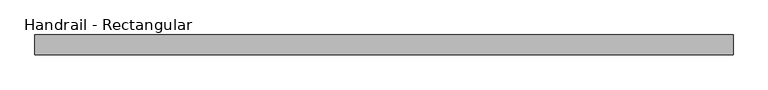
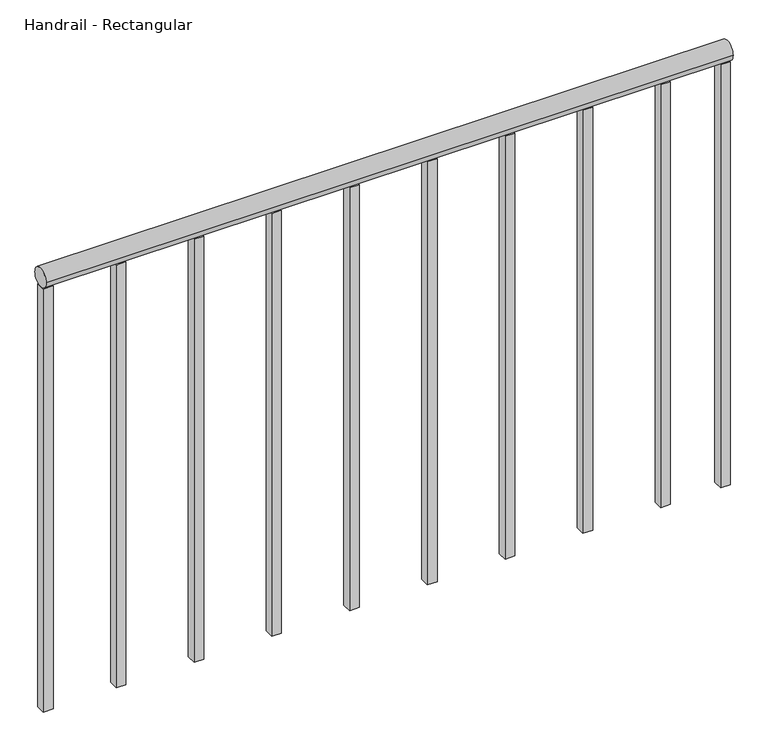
"""IFC4 building model written with IfcOpenShell, lengths in millimetres: railing geometry, Handrail - Rectangular."""

from ifc_helpers import new_model, si_unit, point, frame, frame_2d, origin, place, context, project, spatial, polyline, circle_curve, trimmed, segment, composite_curve, outline, extrude, source, transform, mapped, element, save


def handrail_rectangular_71b7e832(model_context):
    return source(origin(), model_context, "Body", "SweptSolid", [
        extrude(outline(composite_curve([segment(trimmed(circle_curve(frame_2d((11944.8316867, 10039.35)), 19.05), [point((11963.8816867, 10039.35))], [point((11925.7816867, 10039.35))], False, "CARTESIAN"), True, "CONTINUOUS"), segment(trimmed(circle_curve(frame_2d((11944.8316867, 10039.35)), 19.05), [point((11925.7816867, 10039.35))], [point((11963.8816867, 10039.35))], False, "CARTESIAN"), True, "CONTINUOUS")], self_intersect=False)), frame((-5665.7589563, 0.0, 0.0), z_axis=(1.0, 0.0, 0.0), x_axis=(0.0, 1.0, 0.0)), (0.0, 0.0, 1.0), 1346.2),
        extrude(outline(polyline([(-4456.0839563, 11935.3066867), (-4456.0839563, 11954.3566867), (-4437.0339563, 11954.3566867), (-4437.0339563, 11935.3066867), (-4456.0839563, 11935.3066867)])), frame((0.0, 0.0, 9144.0), z_axis=(0.0, 0.0, 1.0), x_axis=(1.0, 0.0, 0.0)), (0.0, 0.0, 1.0), 876.3),
        extrude(outline(polyline([(-4608.4839563, 11935.3066867), (-4608.4839563, 11954.3566867), (-4589.4339563, 11954.3566867), (-4589.4339563, 11935.3066867), (-4608.4839563, 11935.3066867)])), frame((0.0, 0.0, 9144.0), z_axis=(0.0, 0.0, 1.0), x_axis=(1.0, 0.0, 0.0)), (0.0, 0.0, 1.0), 876.3),
        extrude(outline(polyline([(-4760.8839563, 11935.3066867), (-4760.8839563, 11954.3566867), (-4741.8339563, 11954.3566867), (-4741.8339563, 11935.3066867), (-4760.8839563, 11935.3066867)])), frame((0.0, 0.0, 9144.0), z_axis=(0.0, 0.0, 1.0), x_axis=(1.0, 0.0, 0.0)), (0.0, 0.0, 1.0), 876.3),
        extrude(outline(polyline([(-4913.2839563, 11935.3066867), (-4913.2839563, 11954.3566867), (-4894.2339563, 11954.3566867), (-4894.2339563, 11935.3066867), (-4913.2839563, 11935.3066867)])), frame((0.0, 0.0, 9144.0), z_axis=(0.0, 0.0, 1.0), x_axis=(1.0, 0.0, 0.0)), (0.0, 0.0, 1.0), 876.3),
        extrude(outline(polyline([(-5065.6839563, 11935.3066867), (-5065.6839563, 11954.3566867), (-5046.6339563, 11954.3566867), (-5046.6339563, 11935.3066867), (-5065.6839563, 11935.3066867)])), frame((0.0, 0.0, 9144.0), z_axis=(0.0, 0.0, 1.0), x_axis=(1.0, 0.0, 0.0)), (0.0, 0.0, 1.0), 876.3),
        extrude(outline(polyline([(-5218.0839563, 11935.3066867), (-5218.0839563, 11954.3566867), (-5199.0339563, 11954.3566867), (-5199.0339563, 11935.3066867), (-5218.0839563, 11935.3066867)])), frame((0.0, 0.0, 9144.0), z_axis=(0.0, 0.0, 1.0), x_axis=(1.0, 0.0, 0.0)), (0.0, 0.0, 1.0), 876.3),
        extrude(outline(polyline([(-5370.4839563, 11935.3066867), (-5370.4839563, 11954.3566867), (-5351.4339563, 11954.3566867), (-5351.4339563, 11935.3066867), (-5370.4839563, 11935.3066867)])), frame((0.0, 0.0, 9144.0), z_axis=(0.0, 0.0, 1.0), x_axis=(1.0, 0.0, 0.0)), (0.0, 0.0, 1.0), 876.3),
        extrude(outline(polyline([(-5522.8839563, 11935.3066867), (-5522.8839563, 11954.3566867), (-5503.8339563, 11954.3566867), (-5503.8339563, 11935.3066867), (-5522.8839563, 11935.3066867)])), frame((0.0, 0.0, 9144.0), z_axis=(0.0, 0.0, 1.0), x_axis=(1.0, 0.0, 0.0)), (0.0, 0.0, 1.0), 876.3),
        extrude(outline(polyline([(-4338.6089563, 11935.3066867), (-4338.6089563, 11954.3566867), (-4319.5589563, 11954.3566867), (-4319.5589563, 11935.3066867), (-4338.6089563, 11935.3066867)])), frame((0.0, 0.0, 9144.0), z_axis=(0.0, 0.0, 1.0), x_axis=(1.0, 0.0, 0.0)), (0.0, 0.0, 1.0), 876.3),
        extrude(outline(polyline([(-5665.7589563, 11935.3066867), (-5665.7589563, 11954.3566867), (-5646.7089563, 11954.3566867), (-5646.7089563, 11935.3066867), (-5665.7589563, 11935.3066867)])), frame((0.0, 0.0, 9144.0), z_axis=(0.0, 0.0, 1.0), x_axis=(1.0, 0.0, 0.0)), (0.0, 0.0, 1.0), 876.3),
    ])


if __name__ == "__main__":
    model = new_model("IFC4")
    model_context = context("Model", 3, world=origin())
    ifc_project = project(units=[si_unit("LENGTHUNIT", "METRE", prefix="MILLI")], contexts=[model_context])
    site = spatial("IfcSite", under=ifc_project)
    building = spatial("IfcBuilding", under=site)
    placement = place(None, origin())
    handrail_rectangular_shape = handrail_rectangular_71b7e832(model_context)
    element("IfcRailing", 1, ObjectType="Handrail - Rectangular", at=placement, inside=building, context=model_context, shape_type="MappedRepresentation", body=[
        mapped(handrail_rectangular_shape, transform((0.0, 0.0, 0.0), x_axis=(1.0, 0.0, 0.0), y_axis=(0.0, 1.0, 0.0), z_axis=(0.0, 0.0, 1.0))),
    ])
    save(model, "model.ifc")
